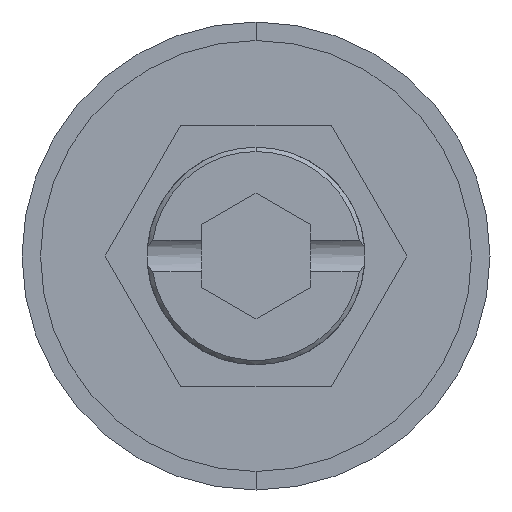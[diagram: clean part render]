
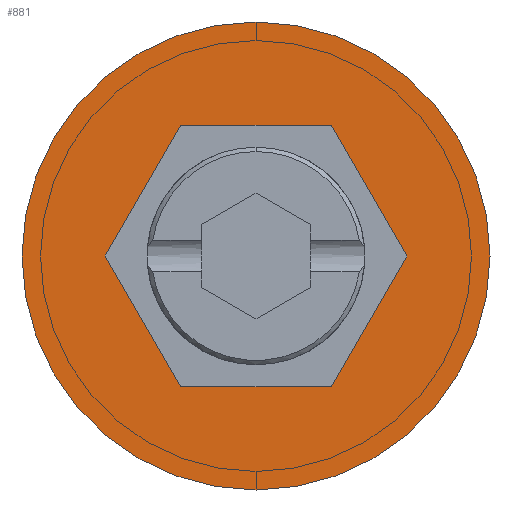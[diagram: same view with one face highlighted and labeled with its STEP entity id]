
A CAD part, front view. The second image highlights one B-rep face of the part: STEP entity #881.
In plain terms, the highlighted planar face has unit normal (0, -1, 0).
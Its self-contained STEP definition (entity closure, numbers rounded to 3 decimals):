
#18 = VECTOR ( 'NONE', #565, 1000. ) ;
#29 = LINE ( 'NONE', #379, #18 ) ;
#110 = VECTOR ( 'NONE', #354, 1000. ) ;
#113 = LINE ( 'NONE', #2101, #110 ) ;
#177 = CARTESIAN_POINT ( 'NONE',  ( 6.928, 0., 0. ) ) ;
#191 = CARTESIAN_POINT ( 'NONE',  ( 0., 0., 0. ) ) ;
#194 = DIRECTION ( 'NONE',  ( 0., -1., 0. ) ) ;
#198 = CIRCLE ( 'NONE', #270, 10.75 ) ;
#202 = DIRECTION ( 'NONE',  ( 0., 0., -1. ) ) ;
#210 = VECTOR ( 'NONE', #2006, 1000. ) ;
#221 = CARTESIAN_POINT ( 'NONE',  ( 0., 0., 0. ) ) ;
#223 = LINE ( 'NONE', #2023, #210 ) ;
#250 = DIRECTION ( 'NONE',  ( 0., -1., 0. ) ) ;
#270 = AXIS2_PLACEMENT_3D ( 'NONE', #191, #194, #202 ) ;
#276 = PLANE ( 'NONE',  #983 ) ;
#344 = CARTESIAN_POINT ( 'NONE',  ( -3.464, 0., 6. ) ) ;
#354 = DIRECTION ( 'NONE',  ( 1., 0., 0. ) ) ;
#379 = CARTESIAN_POINT ( 'NONE',  ( -6.928, 0., 0. ) ) ;
#406 = AXIS2_PLACEMENT_3D ( 'NONE', #2092, #1793, #1483 ) ;
#427 = DIRECTION ( 'NONE',  ( 0., 0., -1. ) ) ;
#494 = VERTEX_POINT ( 'NONE', #1171 ) ;
#528 = ORIENTED_EDGE ( 'NONE', *, *, #1806, .F. ) ;
#552 = ORIENTED_EDGE ( 'NONE', *, *, #1942, .F. ) ;
#555 = FACE_OUTER_BOUND ( 'NONE', #1741, .T. ) ;
#565 = DIRECTION ( 'NONE',  ( 0.5, 0., -0.866 ) ) ;
#576 = ORIENTED_EDGE ( 'NONE', *, *, #2244, .T. ) ;
#589 = FACE_BOUND ( 'NONE', #1025, .T. ) ;
#605 = DIRECTION ( 'NONE',  ( -0.5, 0., -0.866 ) ) ;
#646 = CARTESIAN_POINT ( 'NONE',  ( -3.464, 0., 6. ) ) ;
#669 = VERTEX_POINT ( 'NONE', #1182 ) ;
#806 = ORIENTED_EDGE ( 'NONE', *, *, #1435, .F. ) ;
#815 = VERTEX_POINT ( 'NONE', #177 ) ;
#881 = ADVANCED_FACE ( 'NONE', ( #589, #555 ), #276, .T. ) ;
#983 = AXIS2_PLACEMENT_3D ( 'NONE', #221, #250, #427 ) ;
#999 = ORIENTED_EDGE ( 'NONE', *, *, #1586, .T. ) ;
#1025 = EDGE_LOOP ( 'NONE', ( #1426, #2188, #528, #552, #1188, #806 ) ) ;
#1171 = CARTESIAN_POINT ( 'NONE',  ( 0., 0., 10.75 ) ) ;
#1182 = CARTESIAN_POINT ( 'NONE',  ( 0., 0., -10.75 ) ) ;
#1188 = ORIENTED_EDGE ( 'NONE', *, *, #2042, .F. ) ;
#1265 = DIRECTION ( 'NONE',  ( -1., 0., 0. ) ) ;
#1325 = VERTEX_POINT ( 'NONE', #1951 ) ;
#1381 = CARTESIAN_POINT ( 'NONE',  ( 3.464, 0., 6. ) ) ;
#1426 = ORIENTED_EDGE ( 'NONE', *, *, #1627, .F. ) ;
#1435 = EDGE_CURVE ( 'NONE', #2140, #815, #223, .T. ) ;
#1483 = DIRECTION ( 'NONE',  ( 0., 0., -1. ) ) ;
#1586 = EDGE_CURVE ( 'NONE', #494, #669, #198, .T. ) ;
#1627 = EDGE_CURVE ( 'NONE', #1325, #2140, #113, .T. ) ;
#1669 = CIRCLE ( 'NONE', #406, 10.75 ) ;
#1701 = VERTEX_POINT ( 'NONE', #344 ) ;
#1721 = EDGE_CURVE ( 'NONE', #1961, #1325, #29, .T. ) ;
#1741 = EDGE_LOOP ( 'NONE', ( #576, #999 ) ) ;
#1793 = DIRECTION ( 'NONE',  ( 0., -1., 0. ) ) ;
#1806 = EDGE_CURVE ( 'NONE', #1701, #1961, #2247, .T. ) ;
#1816 = DIRECTION ( 'NONE',  ( -0.5, 0., 0.866 ) ) ;
#1817 = LINE ( 'NONE', #2217, #1843 ) ;
#1843 = VECTOR ( 'NONE', #1816, 1000. ) ;
#1942 = EDGE_CURVE ( 'NONE', #2158, #1701, #2004, .T. ) ;
#1951 = CARTESIAN_POINT ( 'NONE',  ( -3.464, 0., -6. ) ) ;
#1961 = VERTEX_POINT ( 'NONE', #2003 ) ;
#2003 = CARTESIAN_POINT ( 'NONE',  ( -6.928, 0., 0. ) ) ;
#2004 = LINE ( 'NONE', #1381, #2010 ) ;
#2006 = DIRECTION ( 'NONE',  ( 0.5, 0., 0.866 ) ) ;
#2010 = VECTOR ( 'NONE', #1265, 1000. ) ;
#2023 = CARTESIAN_POINT ( 'NONE',  ( 3.464, 0., -6. ) ) ;
#2042 = EDGE_CURVE ( 'NONE', #815, #2158, #1817, .T. ) ;
#2071 = CARTESIAN_POINT ( 'NONE',  ( 3.464, 0., -6. ) ) ;
#2092 = CARTESIAN_POINT ( 'NONE',  ( 0., 0., 0. ) ) ;
#2101 = CARTESIAN_POINT ( 'NONE',  ( -3.464, 0., -6. ) ) ;
#2140 = VERTEX_POINT ( 'NONE', #2071 ) ;
#2154 = CARTESIAN_POINT ( 'NONE',  ( 3.464, 0., 6. ) ) ;
#2158 = VERTEX_POINT ( 'NONE', #2154 ) ;
#2188 = ORIENTED_EDGE ( 'NONE', *, *, #1721, .F. ) ;
#2217 = CARTESIAN_POINT ( 'NONE',  ( 6.928, 0., 0. ) ) ;
#2235 = VECTOR ( 'NONE', #605, 1000. ) ;
#2244 = EDGE_CURVE ( 'NONE', #669, #494, #1669, .T. ) ;
#2247 = LINE ( 'NONE', #646, #2235 ) ;
